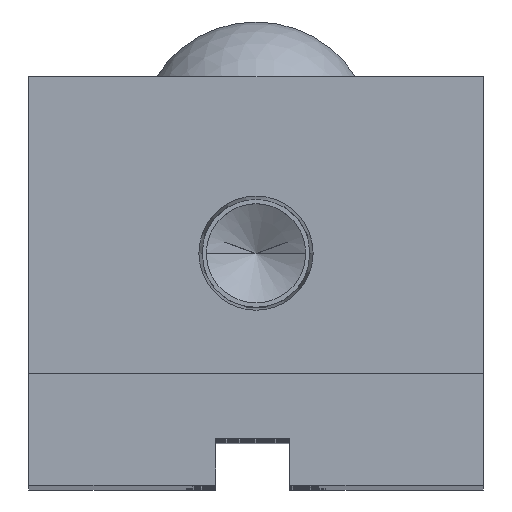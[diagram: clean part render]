
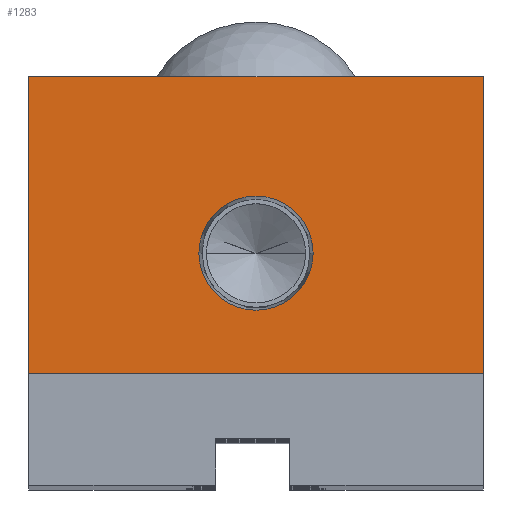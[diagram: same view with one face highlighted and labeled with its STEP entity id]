
A CAD part, top view. The second image highlights one B-rep face of the part: STEP entity #1283.
In plain terms, the highlighted planar face has unit normal (0, 0, 1).
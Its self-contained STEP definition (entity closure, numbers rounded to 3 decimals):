
#85 = LINE ( 'NONE', #1562, #6941 ) ;
#234 = ORIENTED_EDGE ( 'NONE', *, *, #5239, .F. ) ;
#336 = CARTESIAN_POINT ( 'NONE',  ( 24.5, 32., 0. ) ) ;
#392 = DIRECTION ( 'NONE',  ( -1., 0., 0. ) ) ;
#511 = DIRECTION ( 'NONE',  ( 0., 0., 1. ) ) ;
#585 = DIRECTION ( 'NONE',  ( 0., 1., 0. ) ) ;
#628 = CARTESIAN_POINT ( 'NONE',  ( 6.154, 13., 0. ) ) ;
#665 = DIRECTION ( 'NONE',  ( 0., 0., -1. ) ) ;
#732 = CARTESIAN_POINT ( 'NONE',  ( -6.154, 13., 0. ) ) ;
#791 = CARTESIAN_POINT ( 'NONE',  ( 24.5, 0., 0. ) ) ;
#820 = VERTEX_POINT ( 'NONE', #791 ) ;
#983 = ORIENTED_EDGE ( 'NONE', *, *, #6060, .F. ) ;
#1131 = EDGE_CURVE ( 'NONE', #4279, #3128, #6275, .T. ) ;
#1283 = ADVANCED_FACE ( 'NONE', ( #5576, #6695 ), #1736, .F. ) ;
#1562 = CARTESIAN_POINT ( 'NONE',  ( -24.5, 0., 0. ) ) ;
#1603 = VECTOR ( 'NONE', #6587, 1000. ) ;
#1702 = CARTESIAN_POINT ( 'NONE',  ( 24.5, 32., 0. ) ) ;
#1736 = PLANE ( 'NONE',  #6909 ) ;
#1972 = CARTESIAN_POINT ( 'NONE',  ( -24.5, 32., 0. ) ) ;
#1981 = EDGE_CURVE ( 'NONE', #820, #4279, #5140, .T. ) ;
#2059 = CARTESIAN_POINT ( 'NONE',  ( 0., 13., 0. ) ) ;
#2095 = DIRECTION ( 'NONE',  ( 0., -1., 0. ) ) ;
#2247 = AXIS2_PLACEMENT_3D ( 'NONE', #3726, #511, #4265 ) ;
#2372 = ORIENTED_EDGE ( 'NONE', *, *, #4528, .T. ) ;
#2601 = DIRECTION ( 'NONE',  ( 1., 0., 0. ) ) ;
#2934 = CARTESIAN_POINT ( 'NONE',  ( -24.5, 0., 0. ) ) ;
#2935 = ORIENTED_EDGE ( 'NONE', *, *, #1981, .T. ) ;
#3128 = VERTEX_POINT ( 'NONE', #3145 ) ;
#3145 = CARTESIAN_POINT ( 'NONE',  ( -24.5, 32., 0. ) ) ;
#3571 = CIRCLE ( 'NONE', #6947, 6.154 ) ;
#3726 = CARTESIAN_POINT ( 'NONE',  ( 0., 13., 0. ) ) ;
#4265 = DIRECTION ( 'NONE',  ( 1., 0., 0. ) ) ;
#4279 = VERTEX_POINT ( 'NONE', #336 ) ;
#4372 = CIRCLE ( 'NONE', #2247, 6.154 ) ;
#4438 = DIRECTION ( 'NONE',  ( -1., 0., 0. ) ) ;
#4528 = EDGE_CURVE ( 'NONE', #5794, #820, #5907, .T. ) ;
#5140 = LINE ( 'NONE', #1702, #6415 ) ;
#5239 = EDGE_CURVE ( 'NONE', #6245, #6157, #4372, .T. ) ;
#5242 = EDGE_CURVE ( 'NONE', #3128, #5794, #85, .T. ) ;
#5576 = FACE_BOUND ( 'NONE', #5869, .T. ) ;
#5794 = VERTEX_POINT ( 'NONE', #2934 ) ;
#5844 = DIRECTION ( 'NONE',  ( 0., 0., 1. ) ) ;
#5869 = EDGE_LOOP ( 'NONE', ( #983, #234 ) ) ;
#5901 = VECTOR ( 'NONE', #392, 1000. ) ;
#5907 = LINE ( 'NONE', #6034, #1603 ) ;
#6034 = CARTESIAN_POINT ( 'NONE',  ( 24.5, 0., 0. ) ) ;
#6060 = EDGE_CURVE ( 'NONE', #6157, #6245, #3571, .T. ) ;
#6108 = EDGE_LOOP ( 'NONE', ( #6697, #2372, #2935, #6239 ) ) ;
#6157 = VERTEX_POINT ( 'NONE', #628 ) ;
#6239 = ORIENTED_EDGE ( 'NONE', *, *, #1131, .T. ) ;
#6245 = VERTEX_POINT ( 'NONE', #732 ) ;
#6275 = LINE ( 'NONE', #1972, #5901 ) ;
#6415 = VECTOR ( 'NONE', #585, 1000. ) ;
#6587 = DIRECTION ( 'NONE',  ( 1., 0., 0. ) ) ;
#6602 = CARTESIAN_POINT ( 'NONE',  ( 0., 0., 0. ) ) ;
#6695 = FACE_OUTER_BOUND ( 'NONE', #6108, .T. ) ;
#6697 = ORIENTED_EDGE ( 'NONE', *, *, #5242, .T. ) ;
#6909 = AXIS2_PLACEMENT_3D ( 'NONE', #6602, #665, #4438 ) ;
#6941 = VECTOR ( 'NONE', #2095, 1000. ) ;
#6947 = AXIS2_PLACEMENT_3D ( 'NONE', #2059, #5844, #2601 ) ;
